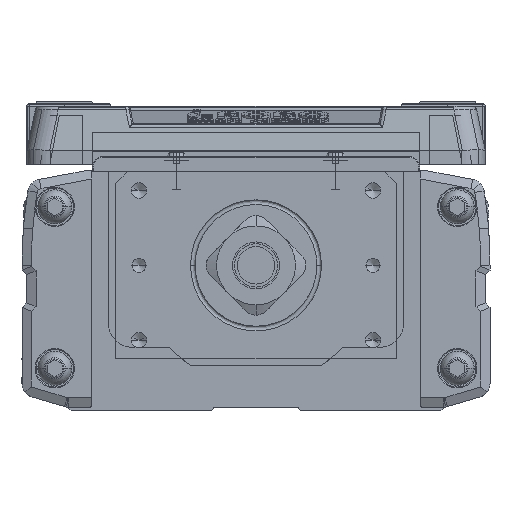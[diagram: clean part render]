
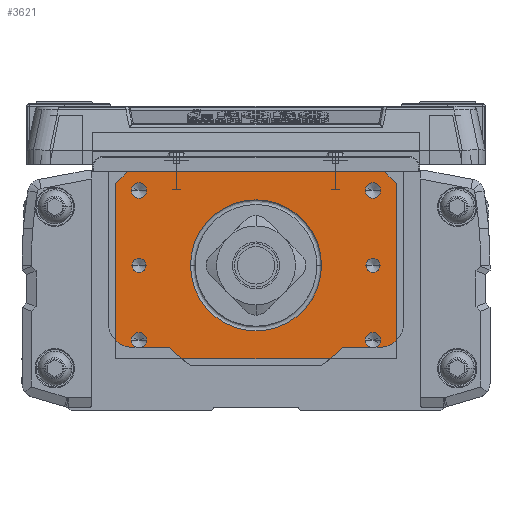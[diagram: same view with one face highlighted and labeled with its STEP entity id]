
A CAD part, left-side view. The second image highlights one B-rep face of the part: STEP entity #3621.
In plain terms, the highlighted planar face has unit normal (-1, 0, 0).
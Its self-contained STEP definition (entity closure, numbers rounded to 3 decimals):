
#3621=ADVANCED_FACE('',(#8472,#8473,#8474,#8475,#8476,#8477,#8478,#8479),#8480,.T.);
#8472=FACE_BOUND('',#14984,.T.);
#8473=FACE_BOUND('',#14985,.T.);
#8474=FACE_BOUND('',#14986,.T.);
#8475=FACE_BOUND('',#14987,.T.);
#8476=FACE_BOUND('',#14988,.T.);
#8477=FACE_BOUND('',#14989,.T.);
#8478=FACE_BOUND('',#14990,.T.);
#8479=FACE_OUTER_BOUND('',#14991,.T.);
#8480=PLANE('',#14992);
#14984=EDGE_LOOP('',(#25370,#25371));
#14985=EDGE_LOOP('',(#25372,#25373));
#14986=EDGE_LOOP('',(#25374,#25375));
#14987=EDGE_LOOP('',(#25376,#25377));
#14988=EDGE_LOOP('',(#25378,#25379));
#14989=EDGE_LOOP('',(#25380,#25381));
#14990=EDGE_LOOP('',(#25382,#25383,#25384));
#14991=EDGE_LOOP('',(#25385,#25386,#25387,#25388,#25389,#25390));
#14992=AXIS2_PLACEMENT_3D('',#25391,#25392,#25393);
#25370=ORIENTED_EDGE('',*,*,#40873,.T.);
#25371=ORIENTED_EDGE('',*,*,#40874,.T.);
#25372=ORIENTED_EDGE('',*,*,#38433,.T.);
#25373=ORIENTED_EDGE('',*,*,#40875,.T.);
#25374=ORIENTED_EDGE('',*,*,#40876,.T.);
#25375=ORIENTED_EDGE('',*,*,#40333,.T.);
#25376=ORIENTED_EDGE('',*,*,#38662,.T.);
#25377=ORIENTED_EDGE('',*,*,#37909,.T.);
#25378=ORIENTED_EDGE('',*,*,#38654,.T.);
#25379=ORIENTED_EDGE('',*,*,#40877,.T.);
#25380=ORIENTED_EDGE('',*,*,#40878,.T.);
#25381=ORIENTED_EDGE('',*,*,#40879,.T.);
#25382=ORIENTED_EDGE('',*,*,#40880,.T.);
#25383=ORIENTED_EDGE('',*,*,#40881,.T.);
#25384=ORIENTED_EDGE('',*,*,#40882,.T.);
#25385=ORIENTED_EDGE('',*,*,#39252,.F.);
#25386=ORIENTED_EDGE('',*,*,#40883,.F.);
#25387=ORIENTED_EDGE('',*,*,#40884,.T.);
#25388=ORIENTED_EDGE('',*,*,#39863,.T.);
#25389=ORIENTED_EDGE('',*,*,#40885,.F.);
#25390=ORIENTED_EDGE('',*,*,#40886,.T.);
#25391=CARTESIAN_POINT('',(-580.,0.,-20.));
#25392=DIRECTION('',(-1.0,0.,0.));
#25393=DIRECTION('',(0.,-1.0,0.));
#37909=EDGE_CURVE('',#45404,#45401,#45405,.T.);
#38433=EDGE_CURVE('',#46318,#46323,#46325,.T.);
#38654=EDGE_CURVE('',#46695,#46700,#46702,.T.);
#38662=EDGE_CURVE('',#45401,#45404,#46714,.T.);
#39252=EDGE_CURVE('',#47720,#47722,#47723,.T.);
#39863=EDGE_CURVE('',#48708,#48705,#48709,.T.);
#40333=EDGE_CURVE('',#49480,#49478,#49481,.T.);
#40873=EDGE_CURVE('',#50294,#50295,#50296,.T.);
#40874=EDGE_CURVE('',#50295,#50294,#50297,.T.);
#40875=EDGE_CURVE('',#46323,#46318,#50298,.T.);
#40876=EDGE_CURVE('',#49478,#49480,#50299,.T.);
#40877=EDGE_CURVE('',#46700,#46695,#50300,.T.);
#40878=EDGE_CURVE('',#50301,#50302,#50303,.T.);
#40879=EDGE_CURVE('',#50302,#50301,#50304,.T.);
#40880=EDGE_CURVE('',#50305,#50306,#50307,.T.);
#40881=EDGE_CURVE('',#50306,#50308,#50309,.T.);
#40882=EDGE_CURVE('',#50308,#50305,#50310,.T.);
#40883=EDGE_CURVE('',#50311,#47720,#50312,.T.);
#40884=EDGE_CURVE('',#50311,#48708,#50313,.T.);
#40885=EDGE_CURVE('',#50314,#48705,#50315,.T.);
#40886=EDGE_CURVE('',#50314,#47722,#50316,.T.);
#45401=VERTEX_POINT('',#56054);
#45404=VERTEX_POINT('',#56058);
#45405=CIRCLE('',#56059,1.65);
#46318=VERTEX_POINT('',#57338);
#46323=VERTEX_POINT('',#57344);
#46325=CIRCLE('',#57347,1.5);
#46695=VERTEX_POINT('',#57912);
#46700=VERTEX_POINT('',#57918);
#46702=CIRCLE('',#57921,1.65);
#46714=CIRCLE('',#57935,1.65);
#47720=VERTEX_POINT('',#59394);
#47722=VERTEX_POINT('',#59397);
#47723=LINE('',#59398,#59399);
#48705=VERTEX_POINT('',#60746);
#48708=VERTEX_POINT('',#60750);
#48709=LINE('',#60751,#60752);
#49478=VERTEX_POINT('',#61859);
#49480=VERTEX_POINT('',#61862);
#49481=CIRCLE('',#61863,1.65);
#50294=VERTEX_POINT('',#63161);
#50295=VERTEX_POINT('',#63162);
#50296=CIRCLE('',#63163,1.5);
#50297=CIRCLE('',#63164,1.5);
#50298=CIRCLE('',#63165,1.5);
#50299=CIRCLE('',#63166,1.65);
#50300=CIRCLE('',#63167,1.65);
#50301=VERTEX_POINT('',#63168);
#50302=VERTEX_POINT('',#63169);
#50303=CIRCLE('',#63170,1.65);
#50304=CIRCLE('',#63171,1.65);
#50305=VERTEX_POINT('',#63172);
#50306=VERTEX_POINT('',#63173);
#50307=CIRCLE('',#63174,14.0);
#50308=VERTEX_POINT('',#63175);
#50309=CIRCLE('',#63176,14.0);
#50310=CIRCLE('',#63177,14.0);
#50311=VERTEX_POINT('',#63178);
#50312=LINE('',#63179,#63180);
#50313=LINE('',#63181,#63182);
#50314=VERTEX_POINT('',#63183);
#50315=LINE('',#63184,#63185);
#50316=LINE('',#63186,#63187);
#56054=CARTESIAN_POINT('',(-580.,26.65,-16.));
#56058=CARTESIAN_POINT('',(-580.,23.35,-16.));
#56059=AXIS2_PLACEMENT_3D('',#70348,#70349,#70350);
#57338=CARTESIAN_POINT('',(-580.,26.5,0.));
#57344=CARTESIAN_POINT('',(-580.,23.5,0.));
#57347=AXIS2_PLACEMENT_3D('',#71062,#71063,#71064);
#57912=CARTESIAN_POINT('',(-580.,26.65,16.));
#57918=CARTESIAN_POINT('',(-580.,23.35,16.));
#57921=AXIS2_PLACEMENT_3D('',#71350,#71351,#71352);
#57935=AXIS2_PLACEMENT_3D('',#71364,#71365,#71366);
#59394=CARTESIAN_POINT('',(-580.,30.,17.5));
#59397=CARTESIAN_POINT('',(-580.,27.5,20.));
#59398=CARTESIAN_POINT('',(-580.,31.25,16.25));
#59399=VECTOR('',#72127,10.);
#60746=CARTESIAN_POINT('',(-580.,-30.,17.5));
#60750=CARTESIAN_POINT('',(-580.,-30.,-20.));
#60751=CARTESIAN_POINT('',(-580.,-30.,-20.));
#60752=VECTOR('',#72939,10.0);
#61859=CARTESIAN_POINT('',(-580.,-26.65,-16.));
#61862=CARTESIAN_POINT('',(-580.,-23.35,-16.));
#61863=AXIS2_PLACEMENT_3D('',#73656,#73657,#73658);
#63161=CARTESIAN_POINT('',(-580.,-26.5,0.));
#63162=CARTESIAN_POINT('',(-580.,-23.5,0.));
#63163=AXIS2_PLACEMENT_3D('',#74349,#74350,#74351);
#63164=AXIS2_PLACEMENT_3D('',#74352,#74353,#74354);
#63165=AXIS2_PLACEMENT_3D('',#74355,#74356,#74357);
#63166=AXIS2_PLACEMENT_3D('',#74358,#74359,#74360);
#63167=AXIS2_PLACEMENT_3D('',#74361,#74362,#74363);
#63168=CARTESIAN_POINT('',(-580.,-26.65,16.));
#63169=CARTESIAN_POINT('',(-580.,-23.35,16.));
#63170=AXIS2_PLACEMENT_3D('',#74364,#74365,#74366);
#63171=AXIS2_PLACEMENT_3D('',#74367,#74368,#74369);
#63172=CARTESIAN_POINT('',(-580.,0.,-14.));
#63173=CARTESIAN_POINT('',(-580.,14.,0.));
#63174=AXIS2_PLACEMENT_3D('',#74370,#74371,#74372);
#63175=CARTESIAN_POINT('',(-580.,-14.,0.));
#63176=AXIS2_PLACEMENT_3D('',#74373,#74374,#74375);
#63177=AXIS2_PLACEMENT_3D('',#74376,#74377,#74378);
#63178=CARTESIAN_POINT('',(-580.,30.,-20.));
#63179=CARTESIAN_POINT('',(-580.,30.,-20.));
#63180=VECTOR('',#74379,10.0);
#63181=CARTESIAN_POINT('',(-580.,30.,-20.));
#63182=VECTOR('',#74380,10.0);
#63183=CARTESIAN_POINT('',(-580.,-27.5,20.));
#63184=CARTESIAN_POINT('',(-580.,-31.25,16.25));
#63185=VECTOR('',#74381,10.);
#63186=CARTESIAN_POINT('',(-580.,30.,20.));
#63187=VECTOR('',#74382,10.0);
#70348=CARTESIAN_POINT('',(-580.,25.,-16.));
#70349=DIRECTION('',(1.0,0.,0.));
#70350=DIRECTION('',(0.,1.0,0.));
#71062=CARTESIAN_POINT('',(-580.,25.,0.));
#71063=DIRECTION('',(1.0,0.,0.));
#71064=DIRECTION('',(0.,1.0,0.));
#71350=CARTESIAN_POINT('',(-580.,25.,16.));
#71351=DIRECTION('',(1.0,0.,0.));
#71352=DIRECTION('',(0.,1.0,0.));
#71364=CARTESIAN_POINT('',(-580.,25.,-16.));
#71365=DIRECTION('',(1.0,0.,0.));
#71366=DIRECTION('',(0.,1.0,0.));
#72127=DIRECTION('',(0.,-0.707,0.707));
#72939=DIRECTION('',(0.,0.,1.0));
#73656=CARTESIAN_POINT('',(-580.,-25.,-16.));
#73657=DIRECTION('',(1.0,0.,0.));
#73658=DIRECTION('',(0.,-1.0,0.));
#74349=CARTESIAN_POINT('',(-580.,-25.,0.));
#74350=DIRECTION('',(1.0,0.,0.));
#74351=DIRECTION('',(0.,-1.0,0.));
#74352=CARTESIAN_POINT('',(-580.,-25.,0.));
#74353=DIRECTION('',(1.0,0.,0.));
#74354=DIRECTION('',(0.,-1.0,0.));
#74355=CARTESIAN_POINT('',(-580.,25.,0.));
#74356=DIRECTION('',(1.0,0.,0.));
#74357=DIRECTION('',(0.,1.0,0.));
#74358=CARTESIAN_POINT('',(-580.,-25.,-16.));
#74359=DIRECTION('',(1.0,0.,0.));
#74360=DIRECTION('',(0.,-1.0,0.));
#74361=CARTESIAN_POINT('',(-580.,25.,16.));
#74362=DIRECTION('',(1.0,0.,0.));
#74363=DIRECTION('',(0.,1.0,0.));
#74364=CARTESIAN_POINT('',(-580.,-25.,16.));
#74365=DIRECTION('',(1.0,0.,0.));
#74366=DIRECTION('',(0.,-1.0,0.));
#74367=CARTESIAN_POINT('',(-580.,-25.,16.));
#74368=DIRECTION('',(1.0,0.,0.));
#74369=DIRECTION('',(0.,-1.0,0.));
#74370=CARTESIAN_POINT('',(-580.,0.,0.));
#74371=DIRECTION('',(1.0,0.,0.));
#74372=DIRECTION('',(0.,0.,1.0));
#74373=CARTESIAN_POINT('',(-580.,0.,0.));
#74374=DIRECTION('',(1.0,0.,0.));
#74375=DIRECTION('',(0.,0.,1.0));
#74376=CARTESIAN_POINT('',(-580.,0.,0.));
#74377=DIRECTION('',(1.0,0.,0.));
#74378=DIRECTION('',(0.,0.,1.0));
#74379=DIRECTION('',(0.,0.,1.0));
#74380=DIRECTION('',(0.,-1.0,0.));
#74381=DIRECTION('',(0.0,-0.707,-0.707));
#74382=DIRECTION('',(0.,1.0,0.));
